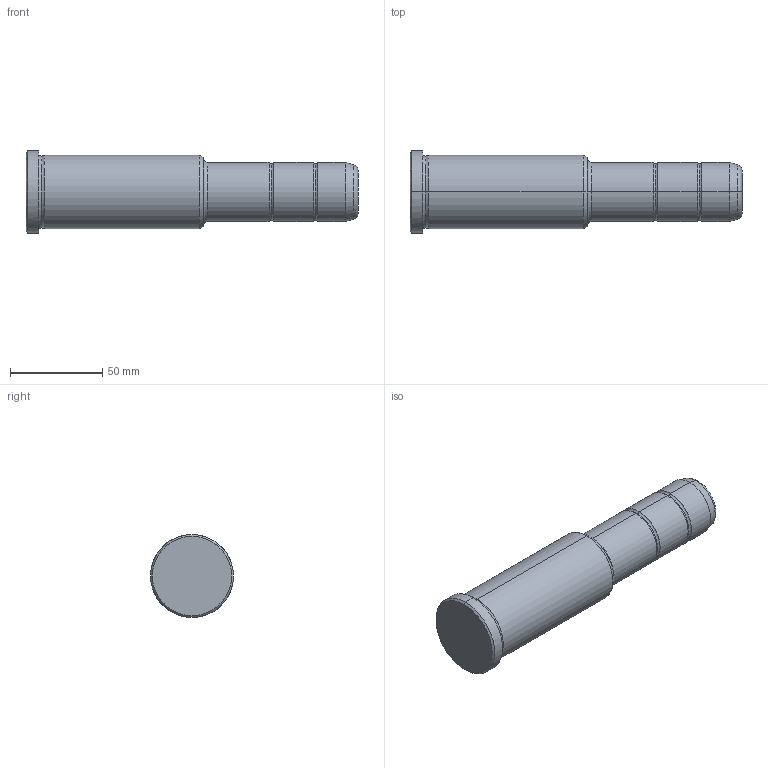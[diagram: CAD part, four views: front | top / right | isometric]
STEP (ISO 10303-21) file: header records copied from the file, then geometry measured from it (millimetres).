
FILE_DESCRIPTION(('CATIA V5 STEP Exchange'),'2;1');
FILE_NAME('C:\Users\Utente\Desktop\IO LAVORO\3D X SITO CF\X SITO\PLASTICA\351\351-32X96X180.stp','2021-09-10T12:21:33+00:00',('none'),('none'),'CATIA Version 5 Release 20 GA (IN-10)','CATIA V5 STEP AP203','none');
FILE_SCHEMA(('CONFIG_CONTROL_DESIGN'));
Length unit declared in the file: millimetre
Products named in the file (1): 351-32X96X180
Bounding box: 180 x 45 x 45 mm (x, y, z)
Volume: 189325.3 mm3; surface area: 23369.8 mm2
Topology: 1 solids, 1 shells, 36 faces, 102 edges, 70 vertices
Faces by surface type: torus 16, cylinder 10, cone 6, plane 4
Entity records: 1292 total; most frequent: CARTESIAN_POINT 321, ORIENTED_EDGE 204, DIRECTION 166, AXIS2_PLACEMENT_3D 115, EDGE_CURVE 102, CIRCLE 78, VERTEX_POINT 70, EDGE_LOOP 38
